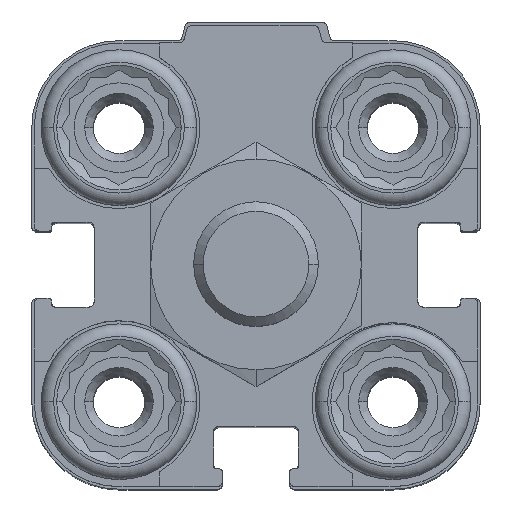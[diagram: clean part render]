
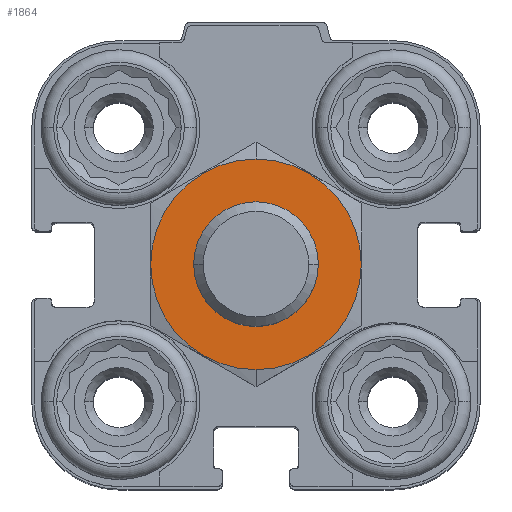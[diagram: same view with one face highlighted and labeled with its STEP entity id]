
A CAD part, top view. The second image highlights one B-rep face of the part: STEP entity #1864.
In plain terms, the highlighted planar face has unit normal (0, 0, 1).
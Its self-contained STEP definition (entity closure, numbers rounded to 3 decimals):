
#234 = CARTESIAN_POINT ( 'NONE',  ( 0., -8.45, 13.5 ) ) ;
#936 = DIRECTION ( 'NONE',  ( 0., -1., 0. ) ) ;
#1864 = ADVANCED_FACE ( 'NONE', ( #5073, #16898 ), #10979, .F. ) ;
#1942 = CARTESIAN_POINT ( 'NONE',  ( 0., 0., 13.5 ) ) ;
#2342 = CARTESIAN_POINT ( 'NONE',  ( 0., 0., 13.5 ) ) ;
#2831 = AXIS2_PLACEMENT_3D ( 'NONE', #11370, #15931, #17294 ) ;
#3304 = EDGE_CURVE ( 'NONE', #12409, #14576, #18851, .T. ) ;
#3644 = ORIENTED_EDGE ( 'NONE', *, *, #15334, .T. ) ;
#3988 = ORIENTED_EDGE ( 'NONE', *, *, #3304, .T. ) ;
#4539 = DIRECTION ( 'NONE',  ( 0., 0., -1. ) ) ;
#5073 = FACE_OUTER_BOUND ( 'NONE', #15757, .T. ) ;
#6057 = AXIS2_PLACEMENT_3D ( 'NONE', #14992, #4539, #13355 ) ;
#7158 = DIRECTION ( 'NONE',  ( 0., 0., -1. ) ) ;
#7775 = VERTEX_POINT ( 'NONE', #18287 ) ;
#7981 = AXIS2_PLACEMENT_3D ( 'NONE', #1942, #13671, #12226 ) ;
#8703 = CARTESIAN_POINT ( 'NONE',  ( 0., 5., 13.5 ) ) ;
#9811 = DIRECTION ( 'NONE',  ( 0., 0., -1. ) ) ;
#10031 = EDGE_CURVE ( 'NONE', #11494, #7775, #10889, .T. ) ;
#10889 = CIRCLE ( 'NONE', #2831, 8.45 ) ;
#10979 = PLANE ( 'NONE',  #11636 ) ;
#11370 = CARTESIAN_POINT ( 'NONE',  ( 0., 0., 13.5 ) ) ;
#11494 = VERTEX_POINT ( 'NONE', #234 ) ;
#11636 = AXIS2_PLACEMENT_3D ( 'NONE', #2342, #9811, #16998 ) ;
#12142 = CARTESIAN_POINT ( 'NONE',  ( 0., -5., 13.5 ) ) ;
#12226 = DIRECTION ( 'NONE',  ( 0., -1., 0. ) ) ;
#12409 = VERTEX_POINT ( 'NONE', #8703 ) ;
#13161 = CARTESIAN_POINT ( 'NONE',  ( 0., 0., 13.5 ) ) ;
#13355 = DIRECTION ( 'NONE',  ( 0., -1., 0. ) ) ;
#13671 = DIRECTION ( 'NONE',  ( 0., 0., -1. ) ) ;
#14141 = AXIS2_PLACEMENT_3D ( 'NONE', #13161, #7158, #936 ) ;
#14576 = VERTEX_POINT ( 'NONE', #12142 ) ;
#14758 = CIRCLE ( 'NONE', #14141, 8.45 ) ;
#14992 = CARTESIAN_POINT ( 'NONE',  ( 0., 0., 13.5 ) ) ;
#15334 = EDGE_CURVE ( 'NONE', #14576, #12409, #19103, .T. ) ;
#15757 = EDGE_LOOP ( 'NONE', ( #16777, #17839 ) ) ;
#15828 = EDGE_LOOP ( 'NONE', ( #3988, #3644 ) ) ;
#15931 = DIRECTION ( 'NONE',  ( 0., 0., -1. ) ) ;
#16181 = EDGE_CURVE ( 'NONE', #7775, #11494, #14758, .T. ) ;
#16777 = ORIENTED_EDGE ( 'NONE', *, *, #10031, .F. ) ;
#16898 = FACE_BOUND ( 'NONE', #15828, .T. ) ;
#16998 = DIRECTION ( 'NONE',  ( 0., -1., 0. ) ) ;
#17294 = DIRECTION ( 'NONE',  ( 0., -1., 0. ) ) ;
#17839 = ORIENTED_EDGE ( 'NONE', *, *, #16181, .F. ) ;
#18287 = CARTESIAN_POINT ( 'NONE',  ( 0., 8.45, 13.5 ) ) ;
#18851 = CIRCLE ( 'NONE', #7981, 5. ) ;
#19103 = CIRCLE ( 'NONE', #6057, 5. ) ;
